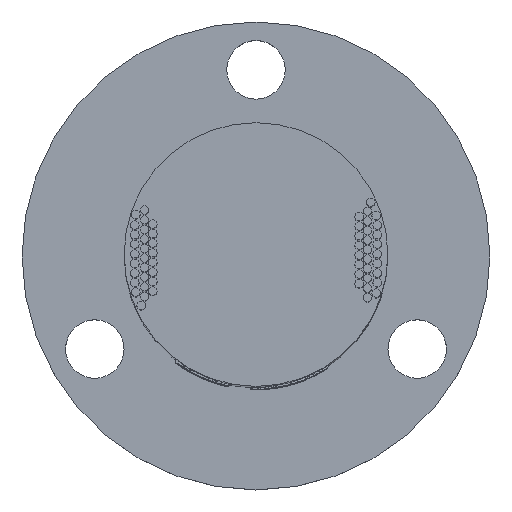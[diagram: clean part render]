
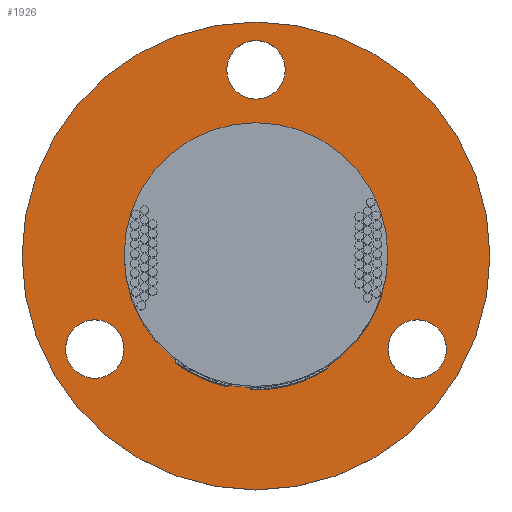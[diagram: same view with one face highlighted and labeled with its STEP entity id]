
A CAD part, top view. The second image highlights one B-rep face of the part: STEP entity #1926.
In plain terms, the highlighted planar face has unit normal (0, 0, 1).
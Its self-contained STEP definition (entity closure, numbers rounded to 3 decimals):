
#357=FACE_BOUND('',#4779,.T.);
#358=FACE_BOUND('',#4780,.T.);
#359=FACE_BOUND('',#4781,.T.);
#360=FACE_BOUND('',#4782,.T.);
#361=FACE_BOUND('',#4783,.T.);
#722=CIRCLE('',#15730,12.4);
#780=CIRCLE('',#15790,2.75);
#781=CIRCLE('',#15791,2.75);
#782=CIRCLE('',#15792,2.75);
#783=CIRCLE('',#15793,22.);
#1167=PLANE('',#15794);
#1926=ADVANCED_FACE('',(#357,#358,#359,#360,#361),#1167,.T.);
#4779=EDGE_LOOP('',(#8004));
#4780=EDGE_LOOP('',(#8005));
#4781=EDGE_LOOP('',(#8006));
#4782=EDGE_LOOP('',(#8007));
#4783=EDGE_LOOP('',(#8008));
#8004=ORIENTED_EDGE('',*,*,#12764,.F.);
#8005=ORIENTED_EDGE('',*,*,#12765,.F.);
#8006=ORIENTED_EDGE('',*,*,#12766,.F.);
#8007=ORIENTED_EDGE('',*,*,#12706,.T.);
#8008=ORIENTED_EDGE('',*,*,#12767,.F.);
#10684=VERTEX_POINT('',#29944);
#10742=VERTEX_POINT('',#30062);
#10743=VERTEX_POINT('',#30064);
#10744=VERTEX_POINT('',#30066);
#10745=VERTEX_POINT('',#30068);
#12706=EDGE_CURVE('',#10684,#10684,#722,.T.);
#12764=EDGE_CURVE('',#10742,#10742,#780,.T.);
#12765=EDGE_CURVE('',#10743,#10743,#781,.T.);
#12766=EDGE_CURVE('',#10744,#10744,#782,.T.);
#12767=EDGE_CURVE('',#10745,#10745,#783,.T.);
#15730=AXIS2_PLACEMENT_3D('',#29943,#17341,#17342);
#15790=AXIS2_PLACEMENT_3D('',#30061,#17461,#17462);
#15791=AXIS2_PLACEMENT_3D('',#30063,#17463,#17464);
#15792=AXIS2_PLACEMENT_3D('',#30065,#17465,#17466);
#15793=AXIS2_PLACEMENT_3D('',#30067,#17467,#17468);
#15794=AXIS2_PLACEMENT_3D('',#30069,#17469,#17470);
#17341=DIRECTION('',(0.,0.,-1.));
#17342=DIRECTION('',(1.,0.,0.));
#17461=DIRECTION('',(0.,0.,1.));
#17462=DIRECTION('',(1.,0.,0.));
#17463=DIRECTION('',(0.,0.,1.));
#17464=DIRECTION('',(1.,0.,0.));
#17465=DIRECTION('',(0.,0.,1.));
#17466=DIRECTION('',(1.,0.,0.));
#17467=DIRECTION('',(0.,0.,-1.));
#17468=DIRECTION('',(1.,0.,0.));
#17469=DIRECTION('',(0.,0.,1.));
#17470=DIRECTION('',(1.,0.,0.));
#29943=CARTESIAN_POINT('',(0.,0.,189.5));
#29944=CARTESIAN_POINT('',(12.4,0.,189.5));
#30061=CARTESIAN_POINT('',(0.,17.5,189.5));
#30062=CARTESIAN_POINT('',(2.75,17.5,189.5));
#30063=CARTESIAN_POINT('',(-15.155,-8.75,189.5));
#30064=CARTESIAN_POINT('',(-12.405,-8.75,189.5));
#30065=CARTESIAN_POINT('',(15.155,-8.75,189.5));
#30066=CARTESIAN_POINT('',(17.905,-8.75,189.5));
#30067=CARTESIAN_POINT('',(0.,0.,189.5));
#30068=CARTESIAN_POINT('',(22.,0.,189.5));
#30069=CARTESIAN_POINT('',(0.,0.,189.5));
